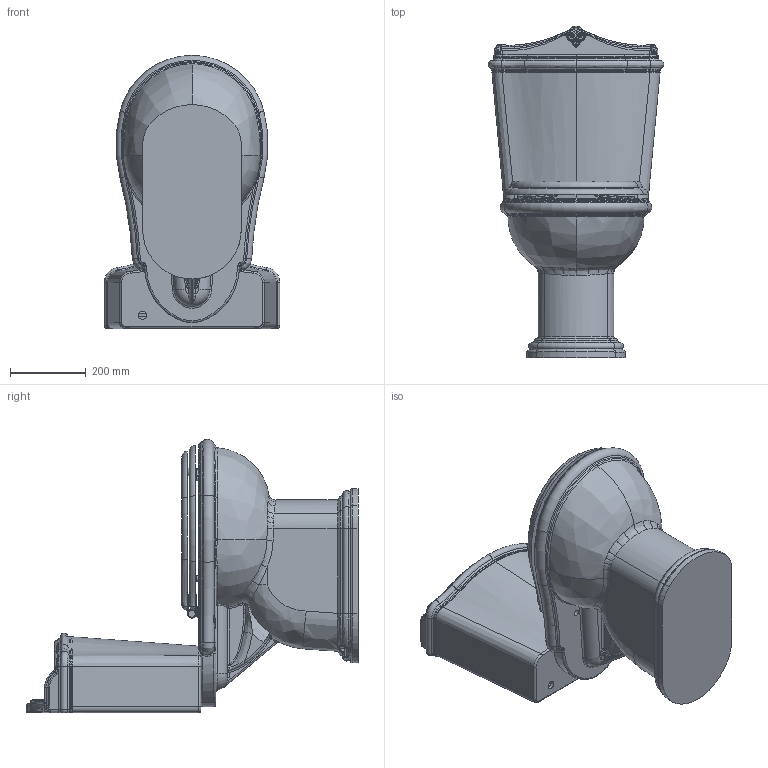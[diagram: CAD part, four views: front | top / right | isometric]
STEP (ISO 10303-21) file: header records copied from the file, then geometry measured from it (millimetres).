
FILE_DESCRIPTION (( 'STEP AP214' ), '1' );
FILE_NAME ('JUB100_MBS JC1800 JUB400_MBL.STEP', '2017-12-12T06:30:56', ( '' ), ( '' ), 'SwSTEP 2.0', 'SolidWorks 2018', '' );
FILE_SCHEMA (( 'AUTOMOTIVE_DESIGN' ));
Length unit declared in the file: millimetre
Products named in the file (6): JC1800; JUB400_MBL; JUB400_MBLcoperchio; JUB400_MBLcass; JUB100_MBS; JUB100_MBS JC1800 JUB400_MBL
Assembly tree (5 placements, depth 3):
  JUB100_MBS JC1800 JUB400_MBL
    JUB100_MBS
    JUB400_MBL
      JUB400_MBLcass
      JUB400_MBLcoperchio
    JC1800
Bounding box: 463.59 x 875.97 x 721.01 mm (x, y, z)
Volume: 36651513.5 mm3; surface area: 2770571.5 mm2
Topology: 4 solids, 4 shells, 1052 faces, 2484 edges, 1432 vertices
Faces by surface type: bspline 500, cylinder 208, torus 152, plane 152, sphere 32, cone 8
Full cylindrical faces by diameter (mm): 10 x2, 15 x2, 16 x2, 20 x2, 22 x1, 30 x2, 42 x1, 64 x1, 75 x1, 115 x1
Entity records: 63515 total; most frequent: CARTESIAN_POINT 42951, ORIENTED_EDGE 4856, DIRECTION 3460, EDGE_CURVE 2428, AXIS2_PLACEMENT_3D 1502, VERTEX_POINT 1422, EDGE_LOOP 1116, FACE_OUTER_BOUND 1074
